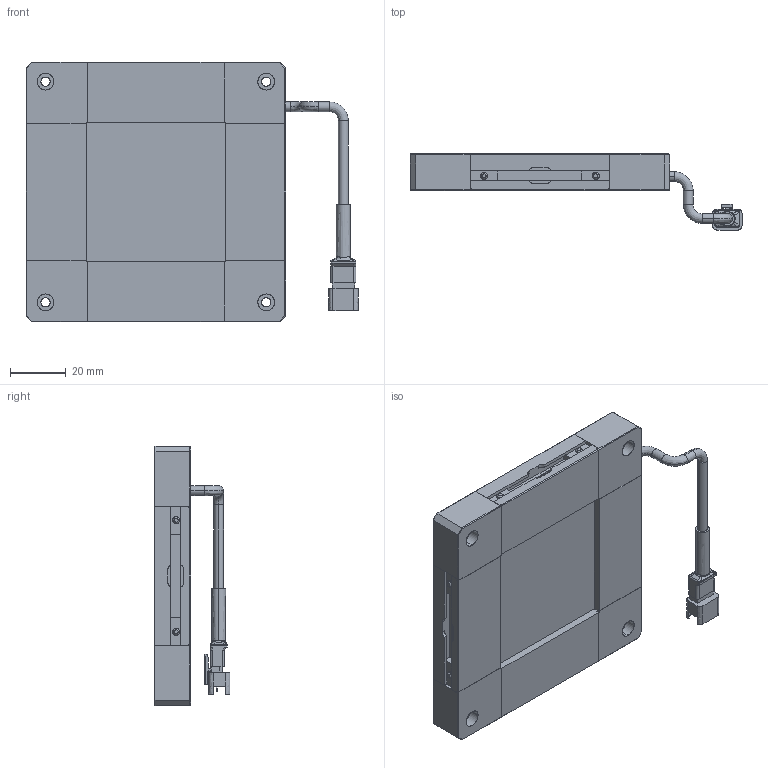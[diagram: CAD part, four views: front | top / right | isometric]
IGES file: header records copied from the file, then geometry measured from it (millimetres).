
Start section: SolidWorks IGES file using NURBS representation for surfaces
Bounding box: 118.85 x 27.1 x 93 mm (x, y, z)
Surface area: 33227.1 mm2 (no closed solid volume)
Topology: 0 solids, 0 shells, 529 faces, 4652 edges, 4652 vertices
Faces by surface type: bspline 529
